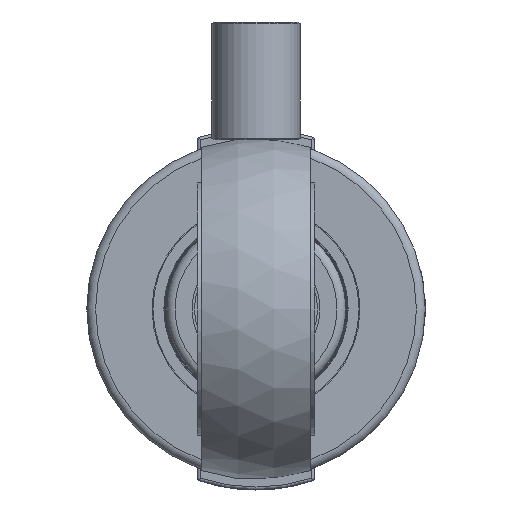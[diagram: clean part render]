
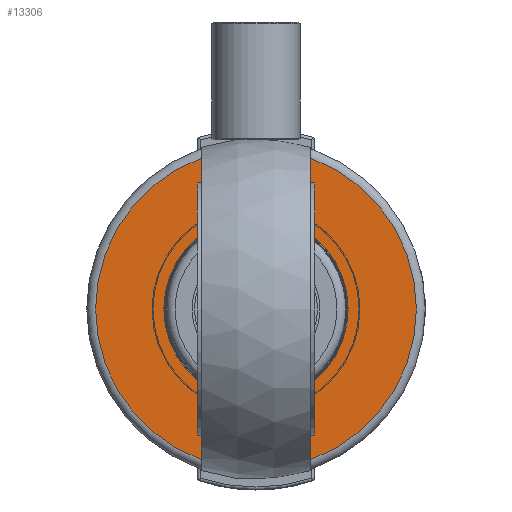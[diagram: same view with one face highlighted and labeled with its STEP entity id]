
A CAD part, front view. The second image highlights one B-rep face of the part: STEP entity #13306.
In plain terms, the highlighted planar face has unit normal (0, -1, 0) as drawn and (-1, 0, 0) by its records, which use the part's own axes.
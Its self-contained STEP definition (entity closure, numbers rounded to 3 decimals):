
#1445=FACE_BOUND('',#3222,.T.);
#1675=PLANE('',#13953);
#2403=FACE_OUTER_BOUND('',#3221,.T.);
#3221=EDGE_LOOP('',(#12071));
#3222=EDGE_LOOP('',(#12072));
#5212=CIRCLE('',#13952,54.5);
#5213=CIRCLE('',#13954,31.3);
#6527=VERTEX_POINT('',#34816);
#6528=VERTEX_POINT('',#34820);
#8397=EDGE_CURVE('',#6527,#6527,#5212,.T.);
#8398=EDGE_CURVE('',#6528,#6528,#5213,.T.);
#12071=ORIENTED_EDGE('',*,*,#8397,.F.);
#12072=ORIENTED_EDGE('',*,*,#8398,.T.);
#13306=ADVANCED_FACE('',(#2403,#1445),#1675,.T.);
#13952=AXIS2_PLACEMENT_3D('',#34818,#15818,#15819);
#13953=AXIS2_PLACEMENT_3D('',#34819,#15820,#15821);
#13954=AXIS2_PLACEMENT_3D('',#34821,#15822,#15823);
#15818=DIRECTION('center_axis',(1.,0.,0.));
#15819=DIRECTION('ref_axis',(0.,-1.,0.));
#15820=DIRECTION('center_axis',(-1.,0.,0.));
#15821=DIRECTION('ref_axis',(0.,0.,1.));
#15822=DIRECTION('center_axis',(1.,0.,0.));
#15823=DIRECTION('ref_axis',(0.,0.,-1.));
#34816=CARTESIAN_POINT('',(0.,0.,54.5));
#34818=CARTESIAN_POINT('Origin',(0.,0.,0.));
#34819=CARTESIAN_POINT('Origin',(0.,57.5,0.));
#34820=CARTESIAN_POINT('',(0.,-31.3,0.));
#34821=CARTESIAN_POINT('Origin',(0.,0.,0.));
